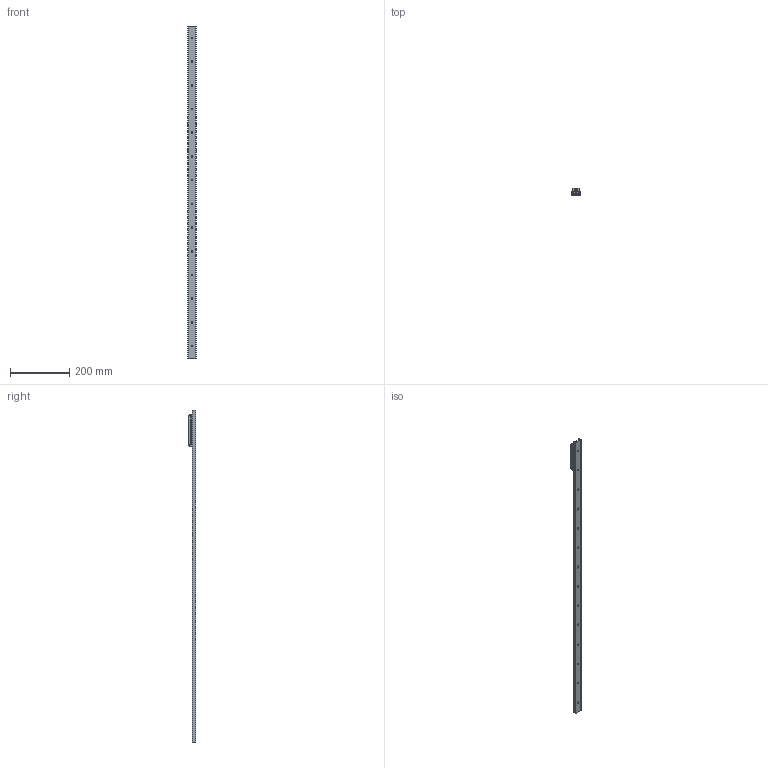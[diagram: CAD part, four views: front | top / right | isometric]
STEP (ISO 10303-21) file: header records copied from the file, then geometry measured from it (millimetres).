
FILE_DESCRIPTION( ( 'STEP AP214' ), '1' );
FILE_NAME( 'p:/temp/worker_10/temp/exporttempdir_3964_632_ZVTZ2/format_2/TGV-01120_1_RV28G-3.stp', '2020-11-20T15:19:25', ( 'License CC BY-ND 4.0' ), ( 'CADENAS' ), ' ', 'PARTsolutions', ' ' );
FILE_SCHEMA( ( 'AUTOMOTIVE_DESIGN { 1 0 10303 214 1 1 1 1 }' ) );
Length unit declared in the file: millimetre
Products named in the file (6): TGV-01120/1/RV28G-3; _TGV28-1120-(3-1); _RV28G-3-slider; _RGNV28R; _RGAV28R; _WR28G-01
Assembly tree (7 placements, depth 2):
  TGV-01120/1/RV28G-3
    _TGV28-1120-(3-1)
    _RV28G-3-slider
    _RGNV28R  x2
    _RGAV28R
    _WR28G-01  x2
Bounding box: 28 x 24 x 1120 mm (x, y, z)
Volume: 198200.6 mm3; surface area: 125655 mm2
Topology: 7 solids, 7 shells, 1040 faces, 2715 edges, 1771 vertices
Faces by surface type: plane 657, cylinder 294, cone 54, bspline 26, torus 9
Full cylindrical faces by diameter (mm): 1.27 x4, 2 x2, 2.5 x6, 4 x4, 4.134 x4, 4.2 x3, 5 x3, 5.5 x3, 5.75 x14, 7 x5, 7.5 x1, 8 x6, 10.8 x3, 17 x3, 20.75 x6
Entity records: 25031 total; most frequent: CARTESIAN_POINT 3987, DIRECTION 3340, ORIENTED_EDGE 3078, EDGE_CURVE 1539, AXIS2_PLACEMENT_3D 1275, VERTEX_POINT 1071, EDGE_LOOP 875, LINE 790
